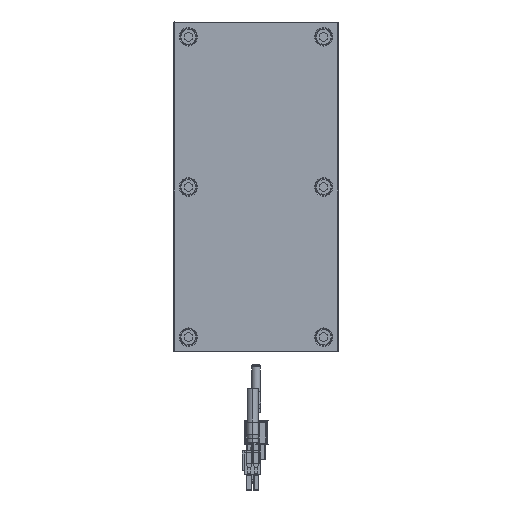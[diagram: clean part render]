
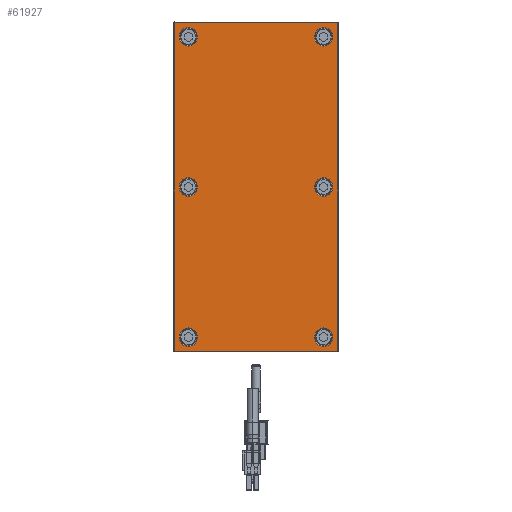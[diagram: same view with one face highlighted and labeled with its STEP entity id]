
A CAD part, front view. The second image highlights one B-rep face of the part: STEP entity #61927.
In plain terms, the highlighted planar face has unit normal (0, -1, 0).
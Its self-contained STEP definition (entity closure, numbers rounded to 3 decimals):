
#60544=CARTESIAN_POINT('',(99.,-7.,-49.));
#60545=DIRECTION('',(0.,-1.,0.));
#60546=DIRECTION('',(0.,0.,-1.));
#60547=AXIS2_PLACEMENT_3D('',#60544,#60545,#60546);
#60549=DIRECTION('',(1.,0.,0.));
#60550=VECTOR('',#60549,198.);
#60551=CARTESIAN_POINT('',(-99.,-7.,
-49.5));
#60552=LINE('',#60551,#60550);
#60553=CARTESIAN_POINT('',(-99.,-7.,-49.));
#60554=DIRECTION('',(0.,-1.,0.));
#60555=DIRECTION('',(-1.,0.,0.));
#60556=AXIS2_PLACEMENT_3D('',#60553,#60554,#60555);
#60558=DIRECTION('',(0.,0.,-1.));
#60559=VECTOR('',#60558,98.);
#60560=CARTESIAN_POINT('',(-99.5,-7.,
49.));
#60561=LINE('',#60560,#60559);
#60562=CARTESIAN_POINT('',(-99.,-7.,49.));
#60563=DIRECTION('',(0.,-1.,0.));
#60564=DIRECTION('',(0.,0.,1.));
#60565=AXIS2_PLACEMENT_3D('',#60562,#60563,#60564);
#60567=DIRECTION('',(-1.,0.,0.));
#60568=VECTOR('',#60567,198.);
#60569=CARTESIAN_POINT('',(99.,-7.,
49.5));
#60570=LINE('',#60569,#60568);
#60571=CARTESIAN_POINT('',(99.,-7.,49.));
#60572=DIRECTION('',(0.,-1.,0.));
#60573=DIRECTION('',(1.,0.,0.));
#60574=AXIS2_PLACEMENT_3D('',#60571,#60572,#60573);
#60576=DIRECTION('',(0.,0.,1.));
#60577=VECTOR('',#60576,98.);
#60578=CARTESIAN_POINT('',(99.5,-7.,
-49.));
#60579=LINE('',#60578,#60577);
#60580=CARTESIAN_POINT('',(-91.,-7.,-41.));
#60581=DIRECTION('',(0.,1.,0.));
#60582=DIRECTION('',(1.,0.,0.));
#60583=AXIS2_PLACEMENT_3D('',#60580,#60581,#60582);
#60585=CARTESIAN_POINT('',(-91.,-7.,-41.));
#60586=DIRECTION('',(0.,1.,0.));
#60587=DIRECTION('',(-1.,0.,0.));
#60588=AXIS2_PLACEMENT_3D('',#60585,#60586,#60587);
#60590=CARTESIAN_POINT('',(0.,-7.,-41.));
#60591=DIRECTION('',(0.,1.,0.));
#60592=DIRECTION('',(1.,0.,0.));
#60593=AXIS2_PLACEMENT_3D('',#60590,#60591,#60592);
#60595=CARTESIAN_POINT('',(0.,-7.,-41.));
#60596=DIRECTION('',(0.,1.,0.));
#60597=DIRECTION('',(-1.,0.,0.));
#60598=AXIS2_PLACEMENT_3D('',#60595,#60596,#60597);
#60600=CARTESIAN_POINT('',(91.,-7.,-41.));
#60601=DIRECTION('',(0.,1.,0.));
#60602=DIRECTION('',(1.,0.,0.));
#60603=AXIS2_PLACEMENT_3D('',#60600,#60601,#60602);
#60605=CARTESIAN_POINT('',(91.,-7.,-41.));
#60606=DIRECTION('',(0.,1.,0.));
#60607=DIRECTION('',(-1.,0.,0.));
#60608=AXIS2_PLACEMENT_3D('',#60605,#60606,#60607);
#60610=CARTESIAN_POINT('',(91.,-7.,41.));
#60611=DIRECTION('',(0.,1.,0.));
#60612=DIRECTION('',(1.,0.,0.));
#60613=AXIS2_PLACEMENT_3D('',#60610,#60611,#60612);
#60615=CARTESIAN_POINT('',(91.,-7.,41.));
#60616=DIRECTION('',(0.,1.,0.));
#60617=DIRECTION('',(-1.,0.,0.));
#60618=AXIS2_PLACEMENT_3D('',#60615,#60616,#60617);
#60620=CARTESIAN_POINT('',(0.,-7.,41.));
#60621=DIRECTION('',(0.,1.,0.));
#60622=DIRECTION('',(1.,0.,0.));
#60623=AXIS2_PLACEMENT_3D('',#60620,#60621,#60622);
#60625=CARTESIAN_POINT('',(0.,-7.,41.));
#60626=DIRECTION('',(0.,1.,0.));
#60627=DIRECTION('',(-1.,0.,0.));
#60628=AXIS2_PLACEMENT_3D('',#60625,#60626,#60627);
#60630=CARTESIAN_POINT('',(-91.,-7.,41.));
#60631=DIRECTION('',(0.,1.,0.));
#60632=DIRECTION('',(1.,0.,0.));
#60633=AXIS2_PLACEMENT_3D('',#60630,#60631,#60632);
#60635=CARTESIAN_POINT('',(-91.,-7.,41.));
#60636=DIRECTION('',(0.,1.,0.));
#60637=DIRECTION('',(-1.,0.,0.));
#60638=AXIS2_PLACEMENT_3D('',#60635,#60636,#60637);
#61668=CARTESIAN_POINT('',(99.,-7.,-49.5));
#61669=CARTESIAN_POINT('',(99.5,-7.,-49.));
#61670=VERTEX_POINT('',#61668);
#61671=VERTEX_POINT('',#61669);
#61676=CARTESIAN_POINT('',(99.5,-7.,
49.));
#61677=VERTEX_POINT('',#61676);
#61680=CARTESIAN_POINT('',(99.,-7.,49.5));
#61681=VERTEX_POINT('',#61680);
#61684=CARTESIAN_POINT('',(-99.,-7.,
49.5));
#61685=VERTEX_POINT('',#61684);
#61688=CARTESIAN_POINT('',(-99.5,-7.,49.));
#61689=VERTEX_POINT('',#61688);
#61692=CARTESIAN_POINT('',(-99.5,-7.,
-49.));
#61693=VERTEX_POINT('',#61692);
#61696=CARTESIAN_POINT('',(-99.,-7.,-49.5));
#61697=VERTEX_POINT('',#61696);
#61724=CARTESIAN_POINT('',(-85.45,-7.,-41.));
#61725=CARTESIAN_POINT('',(-96.55,-7.,-41.));
#61726=VERTEX_POINT('',#61724);
#61727=VERTEX_POINT('',#61725);
#61740=CARTESIAN_POINT('',(5.55,-7.,-41.));
#61741=CARTESIAN_POINT('',(-5.55,-7.,-41.));
#61742=VERTEX_POINT('',#61740);
#61743=VERTEX_POINT('',#61741);
#61764=CARTESIAN_POINT('',(96.55,-7.,-41.));
#61765=CARTESIAN_POINT('',(85.45,-7.,-41.));
#61766=VERTEX_POINT('',#61764);
#61767=VERTEX_POINT('',#61765);
#61780=CARTESIAN_POINT('',(96.55,-7.,41.));
#61781=CARTESIAN_POINT('',(85.45,-7.,41.));
#61782=VERTEX_POINT('',#61780);
#61783=VERTEX_POINT('',#61781);
#61788=CARTESIAN_POINT('',(5.55,-7.,41.));
#61789=CARTESIAN_POINT('',(-5.55,-7.,41.));
#61790=VERTEX_POINT('',#61788);
#61791=VERTEX_POINT('',#61789);
#61812=CARTESIAN_POINT('',(-85.45,-7.,41.));
#61813=CARTESIAN_POINT('',(-96.55,-7.,41.));
#61814=VERTEX_POINT('',#61812);
#61815=VERTEX_POINT('',#61813);
#61868=CARTESIAN_POINT('',(0.,-7.,0.));
#61869=DIRECTION('',(0.,1.,0.));
#61870=DIRECTION('',(1.,0.,0.));
#61871=AXIS2_PLACEMENT_3D('',#61868,#61869,#61870);
#61872=PLANE('',#61871);
#61874=ORIENTED_EDGE('',*,*,#61873,.F.);
#61876=ORIENTED_EDGE('',*,*,#61875,.F.);
#61878=ORIENTED_EDGE('',*,*,#61877,.F.);
#61880=ORIENTED_EDGE('',*,*,#61879,.F.);
#61882=ORIENTED_EDGE('',*,*,#61881,.F.);
#61884=ORIENTED_EDGE('',*,*,#61883,.F.);
#61886=ORIENTED_EDGE('',*,*,#61885,.F.);
#61888=ORIENTED_EDGE('',*,*,#61887,.F.);
#61889=EDGE_LOOP('',(#61874,#61876,#61878,#61880,#61882,#61884,#61886,#61888));
#61890=FACE_OUTER_BOUND('',#61889,.F.);
#61892=ORIENTED_EDGE('',*,*,#61891,.F.);
#61894=ORIENTED_EDGE('',*,*,#61893,.F.);
#61895=EDGE_LOOP('',(#61892,#61894));
#61896=FACE_BOUND('',#61895,.F.);
#61898=ORIENTED_EDGE('',*,*,#61897,.F.);
#61900=ORIENTED_EDGE('',*,*,#61899,.F.);
#61901=EDGE_LOOP('',(#61898,#61900));
#61902=FACE_BOUND('',#61901,.F.);
#61904=ORIENTED_EDGE('',*,*,#61903,.F.);
#61906=ORIENTED_EDGE('',*,*,#61905,.F.);
#61907=EDGE_LOOP('',(#61904,#61906));
#61908=FACE_BOUND('',#61907,.F.);
#61910=ORIENTED_EDGE('',*,*,#61909,.F.);
#61912=ORIENTED_EDGE('',*,*,#61911,.F.);
#61913=EDGE_LOOP('',(#61910,#61912));
#61914=FACE_BOUND('',#61913,.F.);
#61916=ORIENTED_EDGE('',*,*,#61915,.F.);
#61918=ORIENTED_EDGE('',*,*,#61917,.F.);
#61919=EDGE_LOOP('',(#61916,#61918));
#61920=FACE_BOUND('',#61919,.F.);
#61922=ORIENTED_EDGE('',*,*,#61921,.F.);
#61924=ORIENTED_EDGE('',*,*,#61923,.F.);
#61925=EDGE_LOOP('',(#61922,#61924));
#61926=FACE_BOUND('',#61925,.F.);
#61927=ADVANCED_FACE('',(#61890,#61896,#61902,#61908,#61914,#61920,#61926),
#61872,.F.);
#60548=CIRCLE('',#60547,0.5);
#60557=CIRCLE('',#60556,0.5);
#60566=CIRCLE('',#60565,0.5);
#60575=CIRCLE('',#60574,0.5);
#60584=CIRCLE('',#60583,5.55);
#60589=CIRCLE('',#60588,5.55);
#60594=CIRCLE('',#60593,5.55);
#60599=CIRCLE('',#60598,5.55);
#60604=CIRCLE('',#60603,5.55);
#60609=CIRCLE('',#60608,5.55);
#60614=CIRCLE('',#60613,5.55);
#60619=CIRCLE('',#60618,5.55);
#60624=CIRCLE('',#60623,5.55);
#60629=CIRCLE('',#60628,5.55);
#60634=CIRCLE('',#60633,5.55);
#60639=CIRCLE('',#60638,5.55);
#61873=EDGE_CURVE('',#61670,#61671,#60548,.T.);
#61875=EDGE_CURVE('',#61697,#61670,#60552,.T.);
#61877=EDGE_CURVE('',#61693,#61697,#60557,.T.);
#61879=EDGE_CURVE('',#61689,#61693,#60561,.T.);
#61881=EDGE_CURVE('',#61685,#61689,#60566,.T.);
#61883=EDGE_CURVE('',#61681,#61685,#60570,.T.);
#61885=EDGE_CURVE('',#61677,#61681,#60575,.T.);
#61887=EDGE_CURVE('',#61671,#61677,#60579,.T.);
#61891=EDGE_CURVE('',#61726,#61727,#60584,.T.);
#61893=EDGE_CURVE('',#61727,#61726,#60589,.T.);
#61897=EDGE_CURVE('',#61742,#61743,#60594,.T.);
#61899=EDGE_CURVE('',#61743,#61742,#60599,.T.);
#61903=EDGE_CURVE('',#61766,#61767,#60604,.T.);
#61905=EDGE_CURVE('',#61767,#61766,#60609,.T.);
#61909=EDGE_CURVE('',#61782,#61783,#60614,.T.);
#61911=EDGE_CURVE('',#61783,#61782,#60619,.T.);
#61915=EDGE_CURVE('',#61790,#61791,#60624,.T.);
#61917=EDGE_CURVE('',#61791,#61790,#60629,.T.);
#61921=EDGE_CURVE('',#61814,#61815,#60634,.T.);
#61923=EDGE_CURVE('',#61815,#61814,#60639,.T.);
